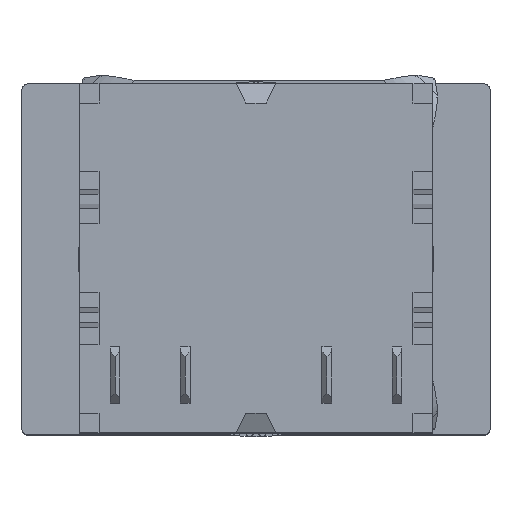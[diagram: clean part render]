
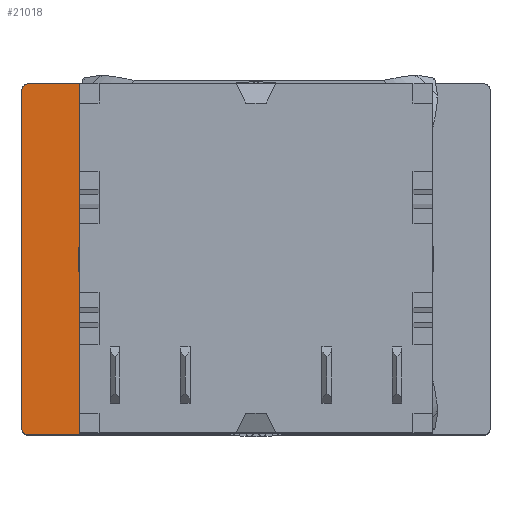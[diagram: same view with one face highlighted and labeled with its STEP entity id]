
A CAD part, top view. The second image highlights one B-rep face of the part: STEP entity #21018.
In plain terms, the highlighted planar face has unit normal (0, 0, 1).
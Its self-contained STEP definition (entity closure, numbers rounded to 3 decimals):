
#597=CARTESIAN_POINT('',(12.,9.,-48.6));
#598=DIRECTION('',(0.,0.,1.));
#599=DIRECTION('',(0.,1.,0.));
#600=AXIS2_PLACEMENT_3D('',#597,#598,#599);
#602=CARTESIAN_POINT('',(12.,9.,-48.6));
#603=DIRECTION('',(0.,0.,1.));
#604=DIRECTION('',(-1.,0.,0.));
#605=AXIS2_PLACEMENT_3D('',#602,#603,#604);
#607=CARTESIAN_POINT('',(0.3,0.3,-48.6));
#608=DIRECTION('',(0.,0.,-1.));
#609=DIRECTION('',(0.,-1.,0.));
#610=AXIS2_PLACEMENT_3D('',#607,#608,#609);
#612=CARTESIAN_POINT('',(0.3,17.7,-48.6));
#613=DIRECTION('',(0.,0.,-1.));
#614=DIRECTION('',(-1.,0.,0.));
#615=AXIS2_PLACEMENT_3D('',#612,#613,#614);
#641=DIRECTION('',(0.986,0.169,0.));
#642=VECTOR('',#641,0.565);
#643=CARTESIAN_POINT('',(3.471,0.6,-48.6));
#644=LINE('',#643,#642);
#645=DIRECTION('',(0.707,-0.707,0.));
#646=VECTOR('',#645,0.653);
#647=CARTESIAN_POINT('',(3.566,1.157,-48.6));
#648=LINE('',#647,#646);
#649=DIRECTION('',(0.169,0.986,0.));
#650=VECTOR('',#649,0.565);
#651=CARTESIAN_POINT('',(3.471,0.6,-48.6));
#652=LINE('',#651,#650);
#653=DIRECTION('',(0.169,-0.986,0.));
#654=VECTOR('',#653,0.565);
#655=CARTESIAN_POINT('',(3.471,17.959,-48.6));
#656=LINE('',#655,#654);
#657=DIRECTION('',(0.707,0.707,0.));
#658=VECTOR('',#657,0.653);
#659=CARTESIAN_POINT('',(3.566,17.402,-48.6));
#660=LINE('',#659,#658);
#661=DIRECTION('',(0.986,-0.169,0.));
#662=VECTOR('',#661,0.565);
#663=CARTESIAN_POINT('',(3.471,17.959,-48.6));
#664=LINE('',#663,#662);
#14625=DIRECTION('',(1.,0.,0.));
#14626=VECTOR('',#14625,11.7);
#14627=CARTESIAN_POINT('',(0.3,18.,-48.6));
#14628=LINE('',#14627,#14626);
#14641=DIRECTION('',(0.,1.,0.));
#14642=VECTOR('',#14641,17.4);
#14643=CARTESIAN_POINT('',(0.,0.3,-48.6));
#14644=LINE('',#14643,#14642);
#14657=DIRECTION('',(-1.,0.,0.));
#14658=VECTOR('',#14657,11.7);
#14659=CARTESIAN_POINT('',(12.,0.,-48.6));
#14660=LINE('',#14659,#14658);
#18687=CARTESIAN_POINT('',(0.,17.7,-48.6));
#18688=CARTESIAN_POINT('',(0.3,18.,-48.6));
#18689=VERTEX_POINT('',#18687);
#18690=VERTEX_POINT('',#18688);
#18691=CARTESIAN_POINT('',(0.,0.3,-48.6));
#18692=VERTEX_POINT('',#18691);
#18693=CARTESIAN_POINT('',(0.3,0.,-48.6));
#18694=VERTEX_POINT('',#18693);
#19710=CARTESIAN_POINT('',(12.,18.,-48.6));
#19712=VERTEX_POINT('',#19710);
#19713=CARTESIAN_POINT('',(3.,9.,-48.6));
#19714=VERTEX_POINT('',#19713);
#19715=CARTESIAN_POINT('',(12.,0.,-48.6));
#19716=VERTEX_POINT('',#19715);
#19749=CARTESIAN_POINT('',(3.471,0.6,-48.6));
#19750=CARTESIAN_POINT('',(4.028,0.696,-48.6));
#19751=VERTEX_POINT('',#19749);
#19752=VERTEX_POINT('',#19750);
#19753=CARTESIAN_POINT('',(3.566,1.157,-48.6));
#19754=VERTEX_POINT('',#19753);
#19755=CARTESIAN_POINT('',(3.471,17.959,-48.6));
#19756=CARTESIAN_POINT('',(3.566,17.402,-48.6));
#19757=VERTEX_POINT('',#19755);
#19758=VERTEX_POINT('',#19756);
#19759=CARTESIAN_POINT('',(4.028,17.863,-48.6));
#19760=VERTEX_POINT('',#19759);
#20981=CARTESIAN_POINT('',(12.,9.,-48.6));
#20982=DIRECTION('',(0.,0.,1.));
#20983=DIRECTION('',(0.,-1.,0.));
#20984=AXIS2_PLACEMENT_3D('',#20981,#20982,#20983);
#20985=PLANE('',#20984);
#20987=ORIENTED_EDGE('',*,*,#20986,.T.);
#20989=ORIENTED_EDGE('',*,*,#20988,.T.);
#20991=ORIENTED_EDGE('',*,*,#20990,.T.);
#20993=ORIENTED_EDGE('',*,*,#20992,.T.);
#20995=ORIENTED_EDGE('',*,*,#20994,.T.);
#20997=ORIENTED_EDGE('',*,*,#20996,.T.);
#20999=ORIENTED_EDGE('',*,*,#20998,.T.);
#21000=EDGE_LOOP('',(#20987,#20989,#20991,#20993,#20995,#20997,#20999));
#21001=FACE_OUTER_BOUND('',#21000,.F.);
#21003=ORIENTED_EDGE('',*,*,#21002,.T.);
#21005=ORIENTED_EDGE('',*,*,#21004,.F.);
#21007=ORIENTED_EDGE('',*,*,#21006,.F.);
#21008=EDGE_LOOP('',(#21003,#21005,#21007));
#21009=FACE_BOUND('',#21008,.F.);
#21011=ORIENTED_EDGE('',*,*,#21010,.T.);
#21013=ORIENTED_EDGE('',*,*,#21012,.T.);
#21015=ORIENTED_EDGE('',*,*,#21014,.F.);
#21016=EDGE_LOOP('',(#21011,#21013,#21015));
#21017=FACE_BOUND('',#21016,.F.);
#21018=ADVANCED_FACE('',(#21001,#21009,#21017),#20985,.T.);
#601=CIRCLE('',#600,9.);
#606=CIRCLE('',#605,9.);
#611=CIRCLE('',#610,0.3);
#616=CIRCLE('',#615,0.3);
#20986=EDGE_CURVE('',#19712,#19714,#601,.T.);
#20988=EDGE_CURVE('',#19714,#19716,#606,.T.);
#20990=EDGE_CURVE('',#19716,#18694,#14660,.T.);
#20992=EDGE_CURVE('',#18694,#18692,#611,.T.);
#20994=EDGE_CURVE('',#18692,#18689,#14644,.T.);
#20996=EDGE_CURVE('',#18689,#18690,#616,.T.);
#20998=EDGE_CURVE('',#18690,#19712,#14628,.T.);
#21002=EDGE_CURVE('',#19751,#19752,#644,.T.);
#21004=EDGE_CURVE('',#19754,#19752,#648,.T.);
#21006=EDGE_CURVE('',#19751,#19754,#652,.T.);
#21010=EDGE_CURVE('',#19757,#19758,#656,.T.);
#21012=EDGE_CURVE('',#19758,#19760,#660,.T.);
#21014=EDGE_CURVE('',#19757,#19760,#664,.T.);
